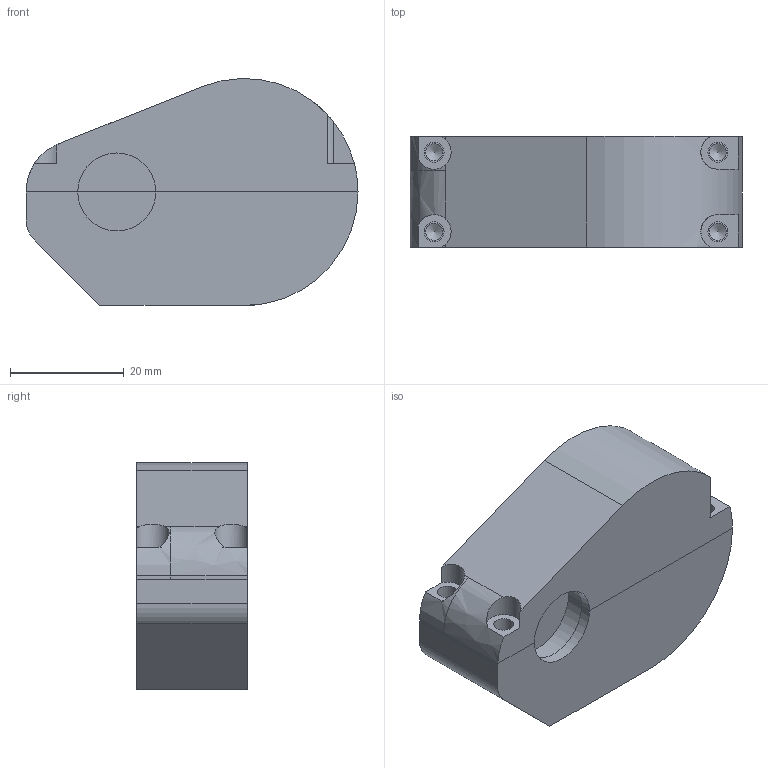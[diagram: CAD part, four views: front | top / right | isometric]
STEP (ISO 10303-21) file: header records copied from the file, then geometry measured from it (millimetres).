
FILE_DESCRIPTION( ( '' ), ' ' );
FILE_NAME( '/vol/tmp/translate-2091437119194923073/5b317fdb3f476d1102fc8118.step', '2018-06-25T23:50:51', ( '' ), ( '' ), ' ', ' ', ' ' );
FILE_SCHEMA( ( 'AUTOMOTIVE_DESIGN { 1 0 10303 214 1 1 1 1 }' ) );
Length unit declared in the file: metre
Products named in the file (2): Gearbox; Gearbox Lid
Bounding box: 58.5 x 19.5 x 39.99 mm (x, y, z)
Volume: 19881 mm3; surface area: 12644.7 mm2
Topology: 2 solids, 2 shells, 85 faces, 253 edges, 170 vertices
Faces by surface type: cylinder 36, plane 36, bspline 6, cone 4, extrusion 3
Full cylindrical faces by diameter (mm): 3 x4, 3.5 x7
Entity records: 3649 total; most frequent: CARTESIAN_POINT 781, ORIENTED_EDGE 448, DIRECTION 424, EDGE_CURVE 224, VERTEX_POINT 160, AXIS2_PLACEMENT_3D 151, VECTOR 122, LINE 119
